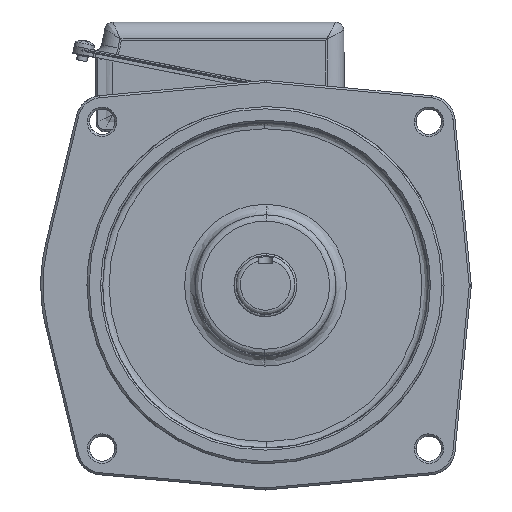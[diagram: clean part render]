
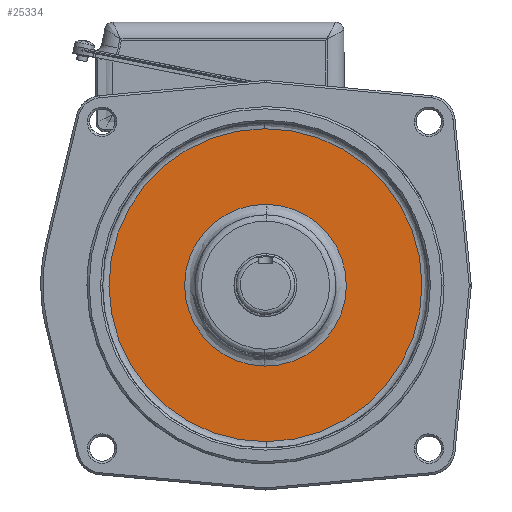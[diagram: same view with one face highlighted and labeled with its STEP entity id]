
A CAD part, top view. The second image highlights one B-rep face of the part: STEP entity #25334.
In plain terms, the highlighted planar face has unit normal (0, 0, 1) as drawn and (0, -1, 0) by its records, which use the part's own axes.
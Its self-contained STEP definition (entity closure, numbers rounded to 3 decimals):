
#15783 = VERTEX_POINT ( 'NONE', #40425 ) ;
#23571 = VERTEX_POINT ( 'NONE', #41583 ) ;
#23576 = VERTEX_POINT ( 'NONE', #41608 ) ;
#23610 = EDGE_CURVE ( 'NONE', #23576, #23571, #41790, .T. ) ;
#23667 = VERTEX_POINT ( 'NONE', #41879 ) ;
#23670 = EDGE_CURVE ( 'NONE', #23667, #15783, #41878, .T. ) ;
#24846 = EDGE_LOOP ( 'NONE', ( #25394, #25395 ) ) ;
#25176 = EDGE_CURVE ( 'NONE', #23571, #23576, #46794, .T. ) ;
#25333 = EDGE_CURVE ( 'NONE', #15783, #23667, #47281, .T. ) ;
#25334 = ADVANCED_FACE ( 'NONE', ( #47282, #47313 ), #47312, .T. ) ;
#25335 = EDGE_LOOP ( 'NONE', ( #25336, #25337 ) ) ;
#25336 = ORIENTED_EDGE ( 'NONE', *, *, #25333, .F. ) ;
#25337 = ORIENTED_EDGE ( 'NONE', *, *, #23670, .F. ) ;
#25394 = ORIENTED_EDGE ( 'NONE', *, *, #23610, .F. ) ;
#25395 = ORIENTED_EDGE ( 'NONE', *, *, #25176, .F. ) ;
#40425 = CARTESIAN_POINT ( 'NONE',  ( 38.496, 1.5, -0.566 ) ) ;
#41583 = CARTESIAN_POINT ( 'NONE',  ( 74.497, 1.5, 0.673 ) ) ;
#41608 = CARTESIAN_POINT ( 'NONE',  ( -74.497, 1.5, -0.673 ) ) ;
#41752 = CARTESIAN_POINT ( 'NONE',  ( 0., 1.5, 0. ) ) ;
#41787 = DIRECTION ( 'NONE',  ( -1., 0., 0. ) ) ;
#41788 = DIRECTION ( 'NONE',  ( 0., 1., 0. ) ) ;
#41789 = AXIS2_PLACEMENT_3D ( 'NONE', #41752, #41788, #41787 ) ;
#41790 = CIRCLE ( 'NONE', #41789, 74.5 ) ;
#41874 = DIRECTION ( 'NONE',  ( -1., 0., 0. ) ) ;
#41875 = DIRECTION ( 'NONE',  ( 0., -1., 0. ) ) ;
#41876 = CARTESIAN_POINT ( 'NONE',  ( 0., 1.5, 0. ) ) ;
#41877 = AXIS2_PLACEMENT_3D ( 'NONE', #41876, #41875, #41874 ) ;
#41878 = CIRCLE ( 'NONE', #41877, 38.5 ) ;
#41879 = CARTESIAN_POINT ( 'NONE',  ( -38.496, 1.5, 0.566 ) ) ;
#46794 = CIRCLE ( 'NONE', #46798, 74.5 ) ;
#46795 = DIRECTION ( 'NONE',  ( -1., 0., 0. ) ) ;
#46796 = DIRECTION ( 'NONE',  ( 0., 1., 0. ) ) ;
#46797 = CARTESIAN_POINT ( 'NONE',  ( 0., 1.5, 0. ) ) ;
#46798 = AXIS2_PLACEMENT_3D ( 'NONE', #46797, #46796, #46795 ) ;
#47277 = CARTESIAN_POINT ( 'NONE',  ( 0., 1.5, 0. ) ) ;
#47278 = DIRECTION ( 'NONE',  ( -1., 0., 0. ) ) ;
#47279 = DIRECTION ( 'NONE',  ( 0., -1., 0. ) ) ;
#47280 = AXIS2_PLACEMENT_3D ( 'NONE', #47277, #47279, #47278 ) ;
#47281 = CIRCLE ( 'NONE', #47280, 38.5 ) ;
#47282 = FACE_BOUND ( 'NONE', #25335, .T. ) ;
#47307 = DIRECTION ( 'NONE',  ( 0., 0., -1. ) ) ;
#47308 = DIRECTION ( 'NONE',  ( 0., -1., 0. ) ) ;
#47309 = CARTESIAN_POINT ( 'NONE',  ( 0., 1.5, 0. ) ) ;
#47310 = AXIS2_PLACEMENT_3D ( 'NONE', #47309, #47308, #47307 ) ;
#47312 = PLANE ( 'NONE',  #47310 ) ;
#47313 = FACE_OUTER_BOUND ( 'NONE', #24846, .T. ) ;
